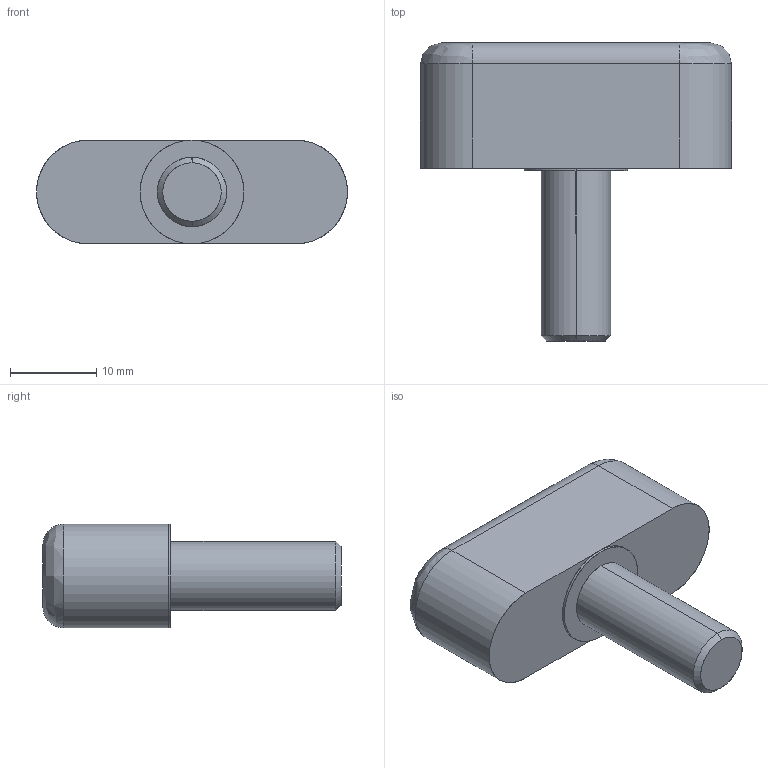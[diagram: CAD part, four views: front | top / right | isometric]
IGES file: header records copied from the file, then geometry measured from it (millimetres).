
Start section: SolidWorks IGES file using analytic representation for surfaces
Global section: file name: C:\Documents and Settings\IanO.IANOHOME\My Documents\Wix and Auto CAD Work\CAD Models\Parametric Models\Wix Models\3738\3738_IGES\3738.W086.igs; native system: SolidWorks 2009; preprocessor: SolidWorks 2009; author: IanO; date: 091209.215803; units: millimetre
Bounding box: 36 x 34.5 x 12 mm (x, y, z)
Surface area: 2450.8 mm2 (no closed solid volume)
Topology: 0 solids, 0 shells, 19 faces, 256 edges, 256 vertices
Faces by surface type: revolution 10, bspline 9
